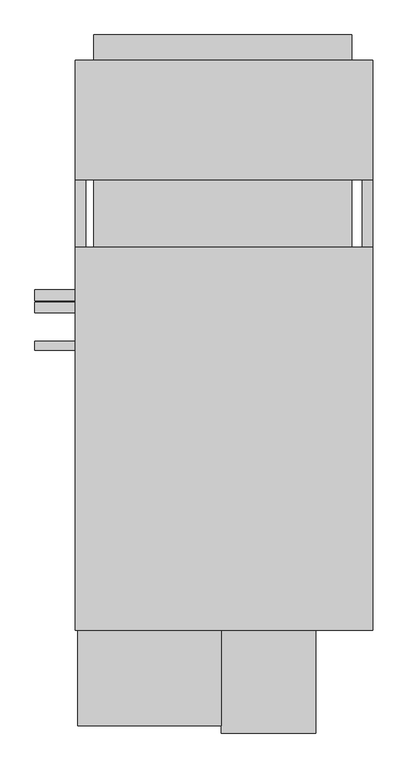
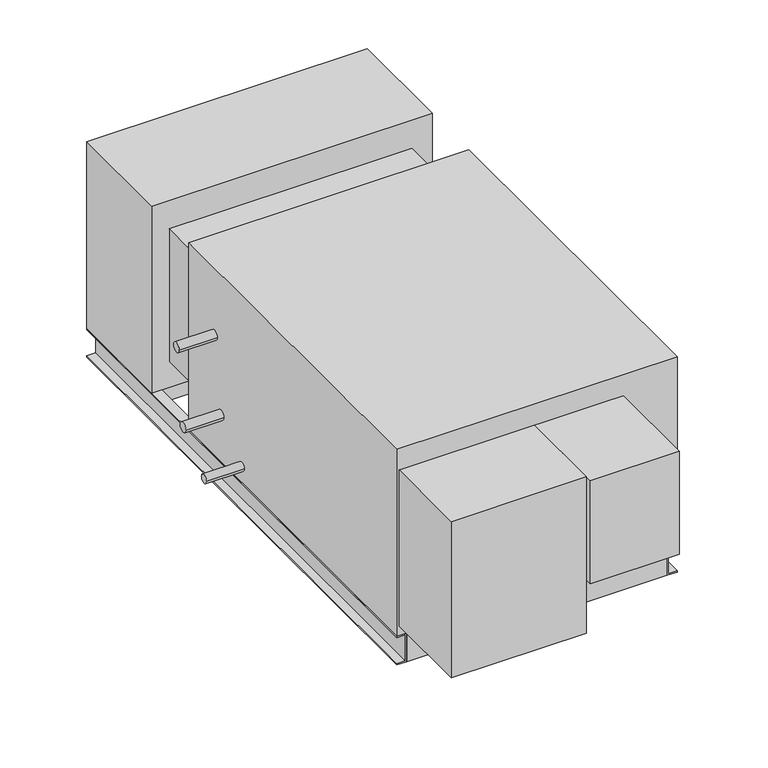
"""IFC4 building model written with IfcOpenShell, lengths in millimetres: proxy geometry, Horizontal_Direct_Drive_Blower_Coil_Unit_-_42DHA_-_CARRIER_-_2-Pipe_Cool-EHeat_NFilterR_W-MixingBox_LH_2022 : Size 06 - 460v/60Hz/3Ph - 8 Row 6.0kW LH."""

from ifc_helpers import new_model, si_unit, point, frame, frame_2d, origin, place, context, project, spatial, polyline, circle_curve, trimmed, segment, composite_curve, outline, extrude, source, transform, mapped, element, save


def mechanical_equipment_9a06b835(model_context):
    return source(origin(), model_context, "Body", "SweptSolid", [
        extrude(outline(polyline([(-406.4, 837.565), (-406.4, 685.165), (-1022.35, 685.165), (-1022.35, 837.565), (-406.4, 837.565)])), frame((0.0, 0.0, -562.61), z_axis=(0.0, 0.0, 1.0), x_axis=(1.0, 0.0, 0.0)), (0.0, 0.0, 1.0), 60.96),
        extrude(outline(polyline([(-1022.35, 1000.125), (-406.4, 1000.125), (-406.4, 939.165), (-1022.35, 939.165), (-1022.35, 1000.125)])), frame((0.0, 0.0, -228.6), z_axis=(0.0, 0.0, 1.0), x_axis=(1.0, 0.0, 0.0)), (0.0, 0.0, 1.0), 152.4),
        extrude(outline(polyline([(-355.6, 939.165), (-355.6, 654.05), (-1066.8, 654.05), (-1066.8, 939.165), (-355.6, 939.165)])), frame((0.0, 0.0, -501.65), z_axis=(0.0, 0.0, 1.0), x_axis=(1.0, 0.0, 0.0)), (0.0, 0.0, 1.0), 501.65),
        extrude(outline(polyline([(-381.0, -396.875), (-381.0, -422.275), (-1041.4, -422.275), (-1041.4, -396.875), (-381.0, -396.875)])), frame((0.0, 0.0, -577.85), z_axis=(0.0, 0.0, 1.0), x_axis=(1.0, 0.0, 0.0)), (0.0, 0.0, 1.0), 76.2),
        extrude(outline(polyline([(-381.0, 939.165), (-381.0, 913.765), (-1041.4, 913.765), (-1041.4, 939.165), (-381.0, 939.165)])), frame((0.0, 0.0, -577.85), z_axis=(0.0, 0.0, 1.0), x_axis=(1.0, 0.0, 0.0)), (0.0, 0.0, 1.0), 76.2),
        extrude(outline(polyline([(-501.65, -1041.4), (-501.65, -1066.8), (-504.825, -1066.8), (-504.825, -1044.575), (-574.675, -1044.575), (-574.675, -1066.8), (-577.85, -1066.8), (-577.85, -1041.4), (-501.65, -1041.4)])), frame((0.0, -422.275, 0.0), z_axis=(0.0, 1.0, 0.0), x_axis=(0.0, 0.0, 1.0)), (0.0, 0.0, 1.0), 1361.44),
        extrude(outline(polyline([(-501.65, -381.0), (-577.85, -381.0), (-577.85, -355.6), (-574.675, -355.6), (-574.675, -377.825), (-504.825, -377.825), (-504.825, -355.6), (-501.65, -355.6), (-501.65, -381.0)])), frame((0.0, -422.275, 0.0), z_axis=(0.0, 1.0, 0.0), x_axis=(0.0, 0.0, 1.0)), (0.0, 0.0, 1.0), 1361.44),
        extrude(outline(composite_curve([segment(trimmed(circle_curve(frame_2d((377.825, -177.8)), 12.7), [point((365.125, -177.8))], [point((390.525, -177.8))], False, "CARTESIAN"), True, "CONTINUOUS"), segment(trimmed(circle_curve(frame_2d((377.825, -177.8)), 12.7), [point((390.525, -177.8))], [point((365.125, -177.8))], False, "CARTESIAN"), True, "CONTINUOUS")], self_intersect=False)), frame((-1163.1025559, 0.0, 0.0), z_axis=(1.0, 0.0, 0.0), x_axis=(0.0, 1.0, 0.0)), (0.0, 0.0, 1.0), 96.3025559),
        extrude(outline(composite_curve([segment(trimmed(circle_curve(frame_2d((348.9715397, -374.65)), 12.7), [point((336.2715397, -374.65))], [point((361.6715397, -374.65))], False, "CARTESIAN"), True, "CONTINUOUS"), segment(trimmed(circle_curve(frame_2d((348.9715397, -374.65)), 12.7), [point((361.6715397, -374.65))], [point((336.2715397, -374.65))], False, "CARTESIAN"), True, "CONTINUOUS")], self_intersect=False)), frame((-1163.1025559, 0.0, 0.0), z_axis=(1.0, 0.0, 0.0), x_axis=(0.0, 1.0, 0.0)), (0.0, 0.0, 1.0), 96.3025559),
        extrude(outline(composite_curve([segment(trimmed(circle_curve(frame_2d((257.175, -457.2)), 11.1125), [point((246.0625, -457.2))], [point((268.2875, -457.2))], False, "CARTESIAN"), True, "CONTINUOUS"), segment(trimmed(circle_curve(frame_2d((257.175, -457.2)), 11.1125), [point((268.2875, -457.2))], [point((246.0625, -457.2))], False, "CARTESIAN"), True, "CONTINUOUS")], self_intersect=False)), frame((-1163.1025559, 0.0, 0.0), z_axis=(1.0, 0.0, 0.0), x_axis=(0.0, 1.0, 0.0)), (0.0, 0.0, 1.0), 96.3025559),
        extrude(outline(polyline([(-355.6, 492.125), (-355.6, -422.275), (-1066.8, -422.275), (-1066.8, 492.125), (-355.6, 492.125)])), frame((0.0, 0.0, -501.65), z_axis=(0.0, 0.0, 1.0), x_axis=(1.0, 0.0, 0.0)), (0.0, 0.0, 1.0), 501.65),
        extrude(outline(polyline([(-717.55, -650.875), (-1060.45, -650.875), (-1060.45, -422.275), (-717.55, -422.275), (-717.55, -650.875)])), frame((0.0, 0.0, -476.25), z_axis=(0.0, 0.0, 1.0), x_axis=(1.0, 0.0, 0.0)), (0.0, 0.0, 1.0), 419.1),
        extrude(outline(polyline([(-1022.35, 654.05), (-406.4, 654.05), (-406.4, 492.125), (-1022.35, 492.125), (-1022.35, 654.05)])), frame((0.0, 0.0, -431.8), z_axis=(0.0, 0.0, 1.0), x_axis=(1.0, 0.0, 0.0)), (0.0, 0.0, 1.0), 355.6),
        extrude(outline(polyline([(-492.125, -668.3375), (-717.55, -668.3375), (-717.55, -422.275), (-492.125, -422.275), (-492.125, -668.3375)])), frame((0.0, 0.0, -333.375), z_axis=(0.0, 0.0, 1.0), x_axis=(1.0, 0.0, 0.0)), (0.0, 0.0, 1.0), 276.225),
    ])


if __name__ == "__main__":
    model = new_model("IFC4")
    model_context = context("Model", 3, world=origin())
    ifc_project = project(units=[si_unit("LENGTHUNIT", "METRE", prefix="MILLI")], contexts=[model_context])
    site = spatial("IfcSite", under=ifc_project)
    building = spatial("IfcBuilding", under=site)
    placement = place(None, origin())
    mechanical_equipment_shape = mechanical_equipment_9a06b835(model_context)
    element("IfcBuildingElementProxy", 1, Name="Horizontal_Direct_Drive_Blower_Coil_Unit_-_42DHA_-_CARRIER_-_2-Pipe_Cool-EHeat_NFilterR_W-MixingBox_LH_2022 : Size 06 - 460v/60Hz/3Ph - 8 Row 6.0kW LH", ObjectType="Horizontal_Direct_Drive_Blower_Coil_Unit_-_42DHA_-_CARRIER_-_2-Pipe_Cool-EHeat_NFilterR_W-MixingBox_LH_2022 : Size 06 - 460v/60Hz/3Ph - 8 Row 6.0kW LH", at=placement, inside=building, context=model_context, shape_type="MappedRepresentation", body=[
        mapped(mechanical_equipment_shape, transform((0.0, 0.0, 0.0), x_axis=(1.0, 0.0, 0.0), y_axis=(0.0, 1.0, 0.0), z_axis=(0.0, 0.0, 1.0))),
    ])
    save(model, "model.ifc")
